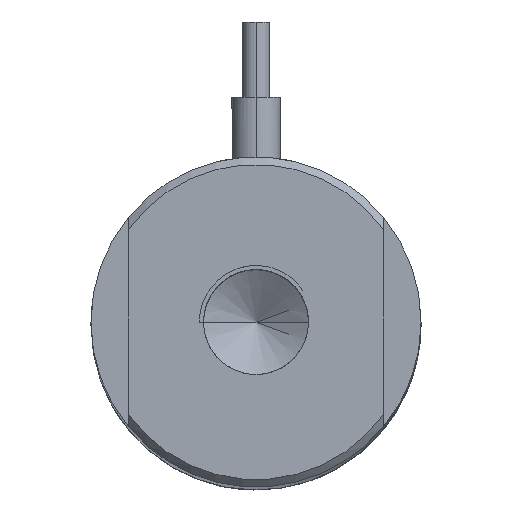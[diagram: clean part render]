
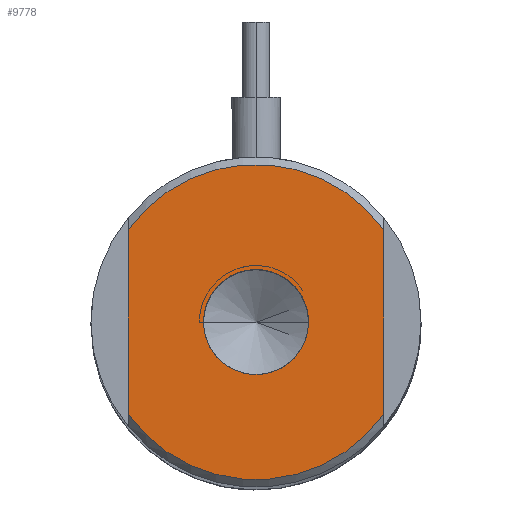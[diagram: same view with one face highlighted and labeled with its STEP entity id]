
A CAD part, top view. The second image highlights one B-rep face of the part: STEP entity #9778.
In plain terms, the highlighted planar face has unit normal (0, 0, 1).
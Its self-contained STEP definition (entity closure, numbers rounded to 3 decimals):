
#181 = DIRECTION ( 'NONE',  ( 0., 0., 1. ) ) ;
#703 = EDGE_CURVE ( 'NONE', #4105, #12893, #11841, .T. ) ;
#804 = CARTESIAN_POINT ( 'NONE',  ( 0., 0., 0. ) ) ;
#1327 = CARTESIAN_POINT ( 'NONE',  ( -8.5, -6.164, 0. ) ) ;
#1361 = DIRECTION ( 'NONE',  ( 1., 0., 0. ) ) ;
#1366 = DIRECTION ( 'NONE',  ( 0., 0., 1. ) ) ;
#1395 = CARTESIAN_POINT ( 'NONE',  ( 0., 0., 0. ) ) ;
#2148 = AXIS2_PLACEMENT_3D ( 'NONE', #10222, #181, #13291 ) ;
#2719 = EDGE_CURVE ( 'NONE', #7211, #6122, #4423, .T. ) ;
#2770 = DIRECTION ( 'NONE',  ( 1., 0., 0. ) ) ;
#2782 = CARTESIAN_POINT ( 'NONE',  ( 0., 0., 0. ) ) ;
#2978 = CIRCLE ( 'NONE', #6578, 10.5 ) ;
#3317 = AXIS2_PLACEMENT_3D ( 'NONE', #1395, #1366, #1361 ) ;
#3986 = DIRECTION ( 'NONE',  ( 1., 0., 0. ) ) ;
#4105 = VERTEX_POINT ( 'NONE', #1327 ) ;
#4244 = CARTESIAN_POINT ( 'NONE',  ( -3.5, 0., 0. ) ) ;
#4423 = LINE ( 'NONE', #8221, #5827 ) ;
#4573 = ORIENTED_EDGE ( 'NONE', *, *, #7761, .F. ) ;
#5291 = EDGE_CURVE ( 'NONE', #7211, #12893, #2978, .T. ) ;
#5827 = VECTOR ( 'NONE', #9275, 1000. ) ;
#6122 = VERTEX_POINT ( 'NONE', #13080 ) ;
#6498 = CARTESIAN_POINT ( 'NONE',  ( 3.5, 0., 0. ) ) ;
#6578 = AXIS2_PLACEMENT_3D ( 'NONE', #2782, #9116, #2770 ) ;
#6601 = PLANE ( 'NONE',  #7418 ) ;
#6685 = CARTESIAN_POINT ( 'NONE',  ( 0., 0., 0. ) ) ;
#7211 = VERTEX_POINT ( 'NONE', #7644 ) ;
#7289 = ORIENTED_EDGE ( 'NONE', *, *, #5291, .T. ) ;
#7418 = AXIS2_PLACEMENT_3D ( 'NONE', #6685, #10003, #9385 ) ;
#7644 = CARTESIAN_POINT ( 'NONE',  ( 8.5, 6.164, 0. ) ) ;
#7759 = DIRECTION ( 'NONE',  ( 0., 1., 0. ) ) ;
#7761 = EDGE_CURVE ( 'NONE', #12228, #8661, #12461, .T. ) ;
#7800 = ORIENTED_EDGE ( 'NONE', *, *, #2719, .F. ) ;
#8221 = CARTESIAN_POINT ( 'NONE',  ( 8.5, 0., 0. ) ) ;
#8661 = VERTEX_POINT ( 'NONE', #6498 ) ;
#8699 = AXIS2_PLACEMENT_3D ( 'NONE', #804, #11252, #3986 ) ;
#9116 = DIRECTION ( 'NONE',  ( 0., 0., 1. ) ) ;
#9275 = DIRECTION ( 'NONE',  ( 0., -1., 0. ) ) ;
#9385 = DIRECTION ( 'NONE',  ( 1., 0., 0. ) ) ;
#9556 = EDGE_CURVE ( 'NONE', #8661, #12228, #13295, .T. ) ;
#9605 = EDGE_LOOP ( 'NONE', ( #4573, #11382 ) ) ;
#9778 = ADVANCED_FACE ( 'NONE', ( #9875, #13188 ), #6601, .T. ) ;
#9875 = FACE_BOUND ( 'NONE', #9605, .T. ) ;
#10003 = DIRECTION ( 'NONE',  ( 0., 0., 1. ) ) ;
#10043 = ORIENTED_EDGE ( 'NONE', *, *, #10292, .T. ) ;
#10058 = ORIENTED_EDGE ( 'NONE', *, *, #703, .F. ) ;
#10222 = CARTESIAN_POINT ( 'NONE',  ( 0., 0., 0. ) ) ;
#10292 = EDGE_CURVE ( 'NONE', #4105, #6122, #12352, .T. ) ;
#11038 = VECTOR ( 'NONE', #7759, 1000. ) ;
#11102 = EDGE_LOOP ( 'NONE', ( #7800, #7289, #10058, #10043 ) ) ;
#11252 = DIRECTION ( 'NONE',  ( 0., 0., 1. ) ) ;
#11319 = CARTESIAN_POINT ( 'NONE',  ( -8.5, 6.164, 0. ) ) ;
#11382 = ORIENTED_EDGE ( 'NONE', *, *, #9556, .F. ) ;
#11589 = CARTESIAN_POINT ( 'NONE',  ( -8.5, 0., 0. ) ) ;
#11841 = LINE ( 'NONE', #11589, #11038 ) ;
#12228 = VERTEX_POINT ( 'NONE', #4244 ) ;
#12352 = CIRCLE ( 'NONE', #8699, 10.5 ) ;
#12461 = CIRCLE ( 'NONE', #3317, 3.5 ) ;
#12893 = VERTEX_POINT ( 'NONE', #11319 ) ;
#13080 = CARTESIAN_POINT ( 'NONE',  ( 8.5, -6.164, 0. ) ) ;
#13188 = FACE_OUTER_BOUND ( 'NONE', #11102, .T. ) ;
#13291 = DIRECTION ( 'NONE',  ( 1., 0., 0. ) ) ;
#13295 = CIRCLE ( 'NONE', #2148, 3.5 ) ;
